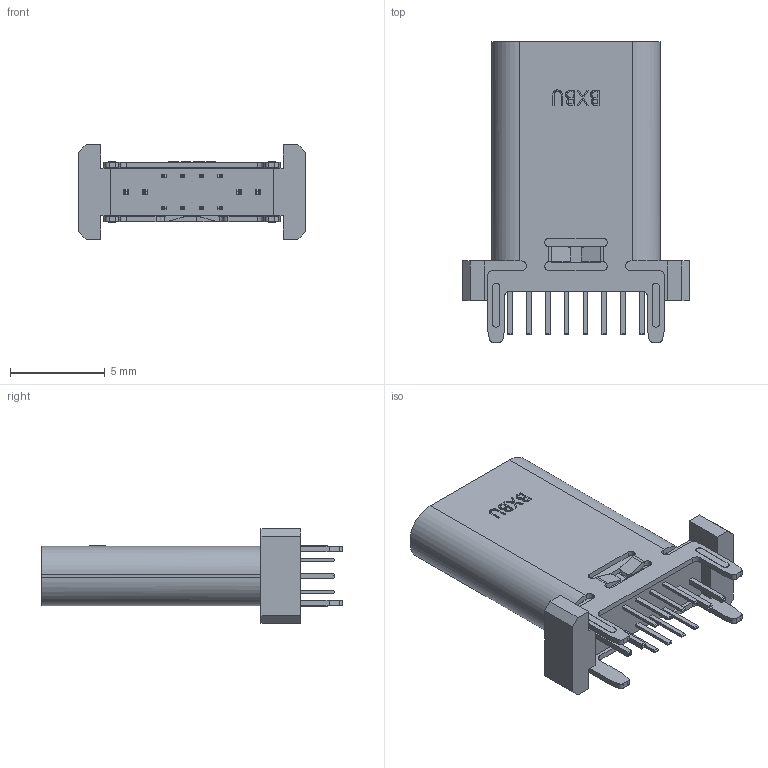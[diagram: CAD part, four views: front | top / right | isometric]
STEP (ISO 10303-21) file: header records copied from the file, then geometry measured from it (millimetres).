
FILE_DESCRIPTION (( 'STEP AP214' ), '1' );
FILE_NAME ('U5102-16PN1.8D2.2J13.7L.STEP', '2026-07-28T06:02:00', ( '' ), ( '' ), 'SwSTEP 2.0', 'SolidWorks 2024', '' );
FILE_SCHEMA (( 'AUTOMOTIVE_DESIGN' ));
Length unit declared in the file: millimetre
Products named in the file (1): U5102-16PN1.8D2.2J13.7L
Bounding box: 12 x 15.9 x 5 mm (x, y, z)
Volume: 277 mm3; surface area: 914.2 mm2
Topology: 1 solids, 1 shells, 563 faces, 1588 edges, 1048 vertices
Faces by surface type: plane 404, cylinder 126, bspline 25, cone 8
Entity records: 19575 total; most frequent: CARTESIAN_POINT 5098, ORIENTED_EDGE 3176, DIRECTION 2754, EDGE_CURVE 1588, VECTOR 1210, LINE 1210, VERTEX_POINT 1048, AXIS2_PLACEMENT_3D 772
